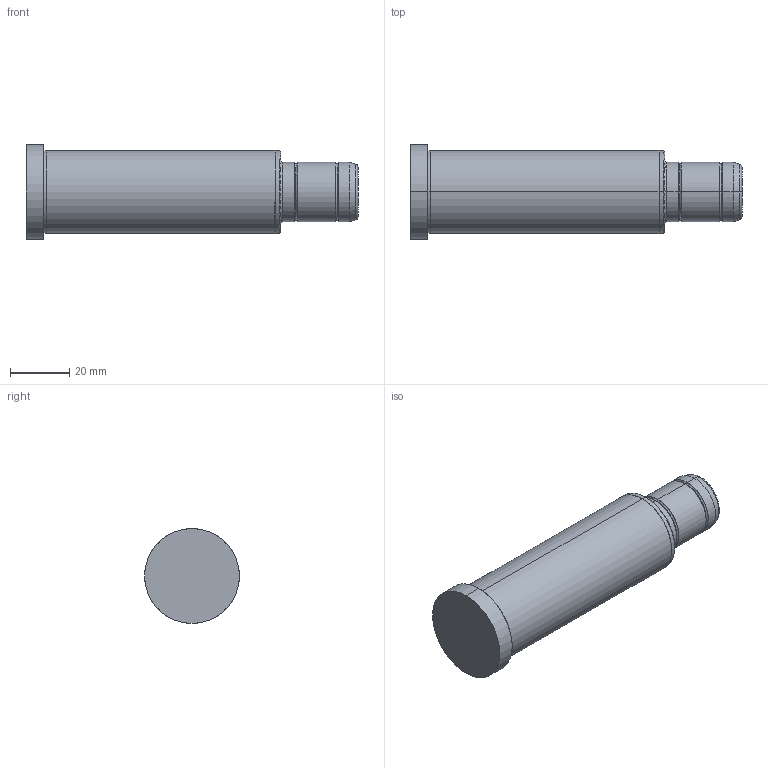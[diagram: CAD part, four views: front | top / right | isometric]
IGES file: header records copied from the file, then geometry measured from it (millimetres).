
Start section: SolidWorks IGES file using analytic representation for surfaces
Global section: file name: C:\Documents and Settings\kalite-mail\Desktop\IGS\D02\20\D02 - 20x86x26.IGS; native system: SolidWorks 2008; preprocessor: SolidWorks 2008; author: kalite-mail; date: 080616.164508; units: millimetre
Bounding box: 112 x 32 x 32 mm (x, y, z)
Surface area: 10852.1 mm2 (no closed solid volume)
Topology: 0 solids, 0 shells, 36 faces, 664 edges, 664 vertices
Faces by surface type: bspline 18, revolution 18
